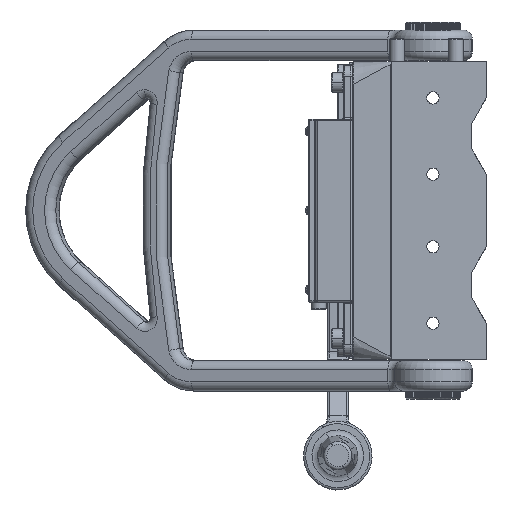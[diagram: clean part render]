
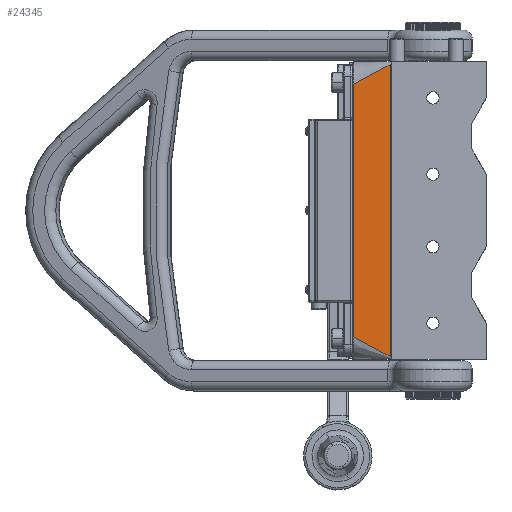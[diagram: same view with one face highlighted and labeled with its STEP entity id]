
A CAD part, left-side view. The second image highlights one B-rep face of the part: STEP entity #24345.
In plain terms, the highlighted planar face has unit normal (-1, 0, 0).
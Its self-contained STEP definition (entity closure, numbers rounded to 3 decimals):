
#4748 = CARTESIAN_POINT ( 'NONE',  ( -366.875, 61.5, -144.857 ) ) ;
#9693 = VERTEX_POINT ( 'NONE', #4748 ) ;
#10318 = VECTOR ( 'NONE', #128348, 1000. ) ;
#14232 = DIRECTION ( 'NONE',  ( 0., 0., 1. ) ) ;
#18755 = EDGE_CURVE ( 'NONE', #114605, #9693, #275207, .T. ) ;
#21966 = CARTESIAN_POINT ( 'NONE',  ( -366.875, 86.831, -146.396 ) ) ;
#24345 = ADVANCED_FACE ( 'NONE', ( #262128 ), #203070, .F. ) ;
#37324 = CARTESIAN_POINT ( 'NONE',  ( -366.875, 85.831, -131.558 ) ) ;
#44229 = DIRECTION ( 'NONE',  ( 0., 0., -1. ) ) ;
#49172 = CARTESIAN_POINT ( 'NONE',  ( -366.875, 61.5, 47.271 ) ) ;
#55387 = ORIENTED_EDGE ( 'NONE', *, *, #18755, .T. ) ;
#55731 = LINE ( 'NONE', #57842, #194454 ) ;
#57842 = CARTESIAN_POINT ( 'NONE',  ( -366.875, 61.5, -146.396 ) ) ;
#75233 = CARTESIAN_POINT ( 'NONE',  ( -366.875, 61.5, 47.271 ) ) ;
#105908 = EDGE_LOOP ( 'NONE', ( #110072, #260409, #55387, #220040 ) ) ;
#110072 = ORIENTED_EDGE ( 'NONE', *, *, #205514, .T. ) ;
#114605 = VERTEX_POINT ( 'NONE', #37324 ) ;
#123269 = VERTEX_POINT ( 'NONE', #210276 ) ;
#128242 = LINE ( 'NONE', #238766, #10318 ) ;
#128348 = DIRECTION ( 'NONE',  ( 0., 0., -1. ) ) ;
#142157 = CARTESIAN_POINT ( 'NONE',  ( -366.875, 69.61, 42.838 ) ) ;
#154107 = VERTEX_POINT ( 'NONE', #49172 ) ;
#160580 = CARTESIAN_POINT ( 'NONE',  ( -366.875, 85.831, 33.972 ) ) ;
#175632 = CARTESIAN_POINT ( 'NONE',  ( -366.875, 61.5, -144.857 ) ) ;
#177017 = DIRECTION ( 'NONE',  ( 1., 0., 0. ) ) ;
#181397 = B_SPLINE_CURVE_WITH_KNOTS ( 'NONE', 3,
 ( #75233, #142157, #231268, #160580 ),
 .UNSPECIFIED., .F., .F.,
 ( 4, 4 ),
 ( 0.036, 0.344 ),
 .UNSPECIFIED. ) ;
#184015 = EDGE_CURVE ( 'NONE', #123269, #114605, #128242, .T. ) ;
#194454 = VECTOR ( 'NONE', #14232, 1000. ) ;
#198824 = CARTESIAN_POINT ( 'NONE',  ( -366.875, 77.72, -135.991 ) ) ;
#203070 = PLANE ( 'NONE',  #226541 ) ;
#205514 = EDGE_CURVE ( 'NONE', #154107, #123269, #181397, .T. ) ;
#210276 = CARTESIAN_POINT ( 'NONE',  ( -366.875, 85.831, 33.972 ) ) ;
#220040 = ORIENTED_EDGE ( 'NONE', *, *, #253759, .T. ) ;
#226541 = AXIS2_PLACEMENT_3D ( 'NONE', #21966, #177017, #44229 ) ;
#231268 = CARTESIAN_POINT ( 'NONE',  ( -366.875, 77.72, 38.405 ) ) ;
#238766 = CARTESIAN_POINT ( 'NONE',  ( -366.875, 85.831, -131.011 ) ) ;
#253759 = EDGE_CURVE ( 'NONE', #9693, #154107, #55731, .T. ) ;
#260409 = ORIENTED_EDGE ( 'NONE', *, *, #184015, .T. ) ;
#262128 = FACE_OUTER_BOUND ( 'NONE', #105908, .T. ) ;
#264772 = CARTESIAN_POINT ( 'NONE',  ( -366.875, 69.61, -140.424 ) ) ;
#275207 = B_SPLINE_CURVE_WITH_KNOTS ( 'NONE', 3,
 ( #287025, #198824, #264772, #175632 ),
 .UNSPECIFIED., .F., .F.,
 ( 4, 4 ),
 ( 0.656, 0.964 ),
 .UNSPECIFIED. ) ;
#287025 = CARTESIAN_POINT ( 'NONE',  ( -366.875, 85.831, -131.558 ) ) ;
